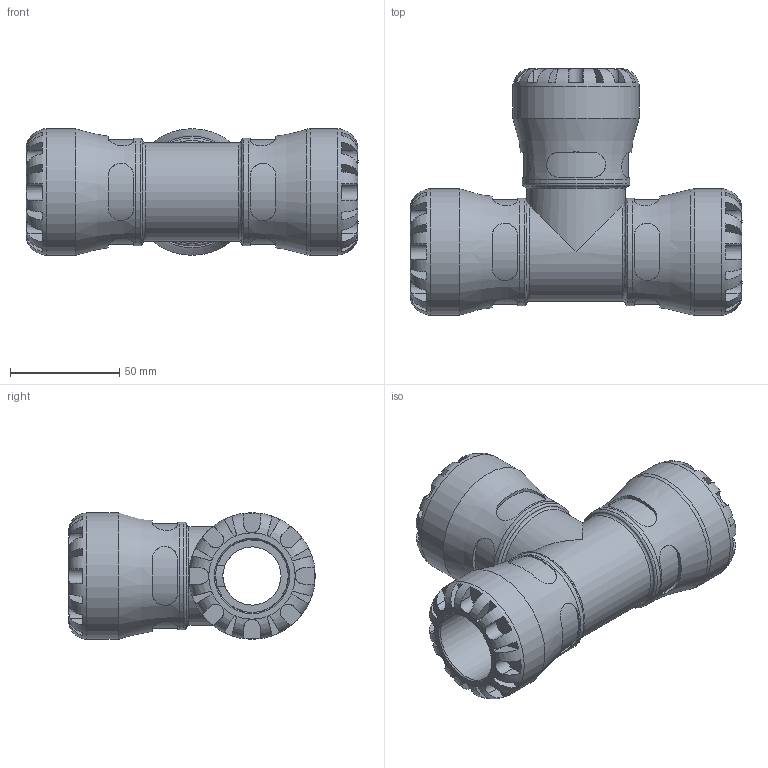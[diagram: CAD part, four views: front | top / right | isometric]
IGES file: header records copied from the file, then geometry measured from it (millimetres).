
Global section: file name: 1004A6010.ipt; native system: Autodesk Inventor 2019; preprocessor: unknown; author: KIM; date: 20210902.120300; units: inch
Bounding box: 151.89 x 112.78 x 57.91 mm (x, y, z)
Volume: 265918.1 mm3; surface area: 65681.4 mm2
Topology: 1 solids, 1 shells, 290 faces, 765 edges, 487 vertices
Faces by surface type: plane 176, revolution 68, cylinder 46
Full cylindrical faces by diameter (mm): 45.171 x1, 49.225 x3, 57.912 x3
